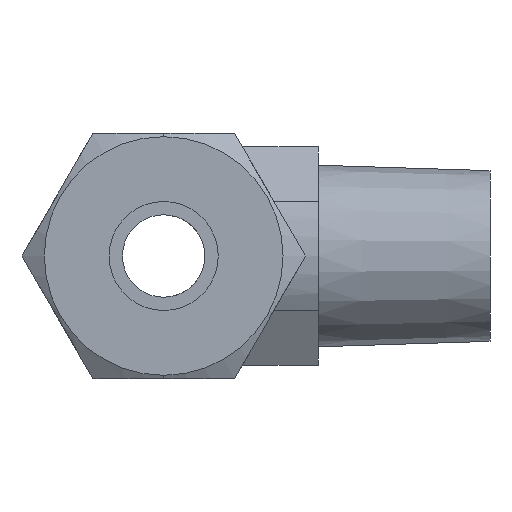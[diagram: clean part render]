
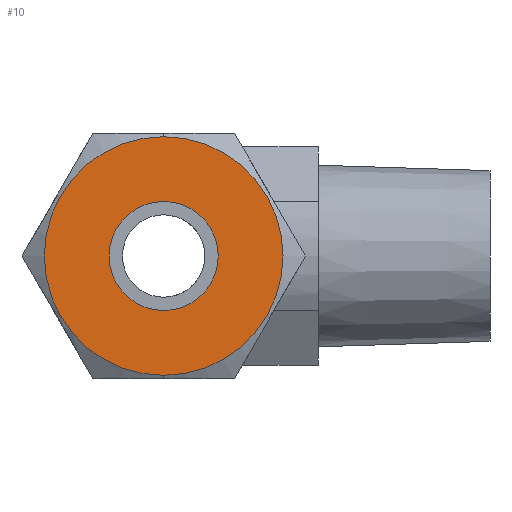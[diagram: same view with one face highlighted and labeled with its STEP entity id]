
A CAD part, left-side view. The second image highlights one B-rep face of the part: STEP entity #10.
In plain terms, the highlighted planar face has unit normal (-1, 0, 0).
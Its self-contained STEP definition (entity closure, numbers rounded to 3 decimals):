
#2 = ORIENTED_EDGE ( 'NONE', *, *, #1775, .T. ) ;
#3 = ORIENTED_EDGE ( 'NONE', *, *, #13, .T. ) ;
#4 = EDGE_LOOP ( 'NONE', ( #2, #3 ) ) ;
#6 = ORIENTED_EDGE ( 'NONE', *, *, #8, .F. ) ;
#7 = ORIENTED_EDGE ( 'NONE', *, *, #1844, .F. ) ;
#8 = EDGE_CURVE ( 'NONE', #1845, #1842, #2044, .T. ) ;
#9 = EDGE_LOOP ( 'NONE', ( #6, #7 ) ) ;
#10 = ADVANCED_FACE ( 'NONE', ( #2040, #2039 ), #2038, .T. ) ;
#13 = EDGE_CURVE ( 'NONE', #1854, #1776, #2036, .T. ) ;
#547 = CARTESIAN_POINT ( 'NONE',  ( -27.4, 0., 3.175 ) ) ;
#548 = DIRECTION ( 'NONE',  ( 0., 0., -1. ) ) ;
#549 = DIRECTION ( 'NONE',  ( 1., 0., 0. ) ) ;
#550 = CARTESIAN_POINT ( 'NONE',  ( -27.4, 0., 0. ) ) ;
#551 = AXIS2_PLACEMENT_3D ( 'NONE', #550, #549, #548 ) ;
#552 = CIRCLE ( 'NONE', #551, 3.175 ) ;
#754 = CARTESIAN_POINT ( 'NONE',  ( -27.4, 0., -3.175 ) ) ;
#772 = CARTESIAN_POINT ( 'NONE',  ( -27.4, 0., 6.95 ) ) ;
#773 = DIRECTION ( 'NONE',  ( 0., 0., -1. ) ) ;
#774 = DIRECTION ( 'NONE',  ( 1., 0., 0. ) ) ;
#775 = CARTESIAN_POINT ( 'NONE',  ( -27.4, 0., 0. ) ) ;
#776 = AXIS2_PLACEMENT_3D ( 'NONE', #775, #774, #773 ) ;
#777 = CIRCLE ( 'NONE', #776, 6.95 ) ;
#778 = CARTESIAN_POINT ( 'NONE',  ( -27.4, 0., -6.95 ) ) ;
#1775 = EDGE_CURVE ( 'NONE', #1776, #1854, #552, .T. ) ;
#1776 = VERTEX_POINT ( 'NONE', #547 ) ;
#1842 = VERTEX_POINT ( 'NONE', #778 ) ;
#1844 = EDGE_CURVE ( 'NONE', #1842, #1845, #777, .T. ) ;
#1845 = VERTEX_POINT ( 'NONE', #772 ) ;
#1854 = VERTEX_POINT ( 'NONE', #754 ) ;
#2029 = DIRECTION ( 'NONE',  ( 0., 0., -1. ) ) ;
#2030 = DIRECTION ( 'NONE',  ( 1., 0., 0. ) ) ;
#2031 = CARTESIAN_POINT ( 'NONE',  ( -27.4, 0., 0. ) ) ;
#2032 = AXIS2_PLACEMENT_3D ( 'NONE', #2031, #2030, #2029 ) ;
#2033 = DIRECTION ( 'NONE',  ( 0., 0., -1. ) ) ;
#2034 = DIRECTION ( 'NONE',  ( -1., 0., 0. ) ) ;
#2035 = AXIS2_PLACEMENT_3D ( 'NONE', #2037, #2034, #2033 ) ;
#2036 = CIRCLE ( 'NONE', #2032, 3.175 ) ;
#2037 = CARTESIAN_POINT ( 'NONE',  ( -27.4, 8.25, 0. ) ) ;
#2038 = PLANE ( 'NONE',  #2035 ) ;
#2039 = FACE_BOUND ( 'NONE', #4, .T. ) ;
#2040 = FACE_OUTER_BOUND ( 'NONE', #9, .T. ) ;
#2041 = DIRECTION ( 'NONE',  ( 0., 0., -1. ) ) ;
#2042 = DIRECTION ( 'NONE',  ( 1., 0., 0. ) ) ;
#2043 = AXIS2_PLACEMENT_3D ( 'NONE', #2049, #2042, #2041 ) ;
#2044 = CIRCLE ( 'NONE', #2043, 6.95 ) ;
#2049 = CARTESIAN_POINT ( 'NONE',  ( -27.4, 0., 0. ) ) ;
